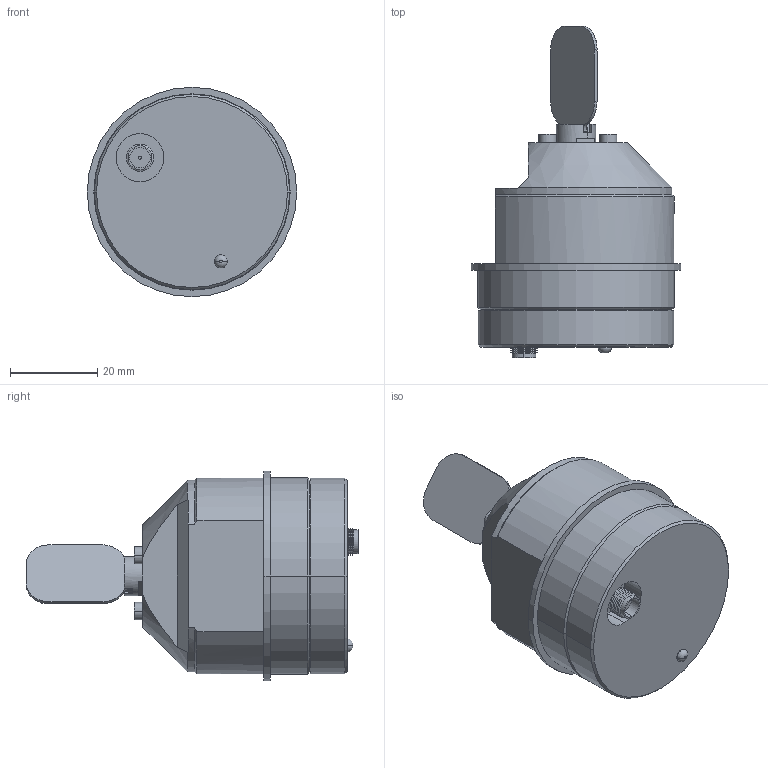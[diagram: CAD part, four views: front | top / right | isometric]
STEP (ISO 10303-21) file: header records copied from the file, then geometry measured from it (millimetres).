
FILE_DESCRIPTION (( 'STEP AP214' ), '1' );
FILE_NAME ('RTAY_A10_SiC.STEP', '2019-06-06T08:08:31', ( '' ), ( '' ), 'SwSTEP 2.0', 'SolidWorks 2011', '' );
FILE_SCHEMA (( 'AUTOMOTIVE_DESIGN' ));
Length unit declared in the file: millimetre
Products named in the file (5): A10_SiC_MirrorY; socket head cap screw_iso_ISO 4762 M2 x 5 --- 5N; RTAY_A10_SiC; Scanner_Solid; Scanner_Draw06_4
Assembly tree (5 placements, depth 2):
  RTAY_A10_SiC
    A10_SiC_MirrorY
    socket head cap screw_iso_ISO 4762 M2 x 5 --- 5N  x2
    Scanner_Solid
    Scanner_Draw06_4
Bounding box: 48 x 76.15 x 48 mm (x, y, z)
Volume: 65786.6 mm3; surface area: 11490.7 mm2
Topology: 5 solids, 5 shells, 237 faces, 544 edges, 330 vertices
Faces by surface type: plane 94, cylinder 73, cone 50, torus 16, bspline 4
Entity records: 7288 total; most frequent: CARTESIAN_POINT 1241, DIRECTION 1099, ORIENTED_EDGE 968, EDGE_CURVE 484, AXIS2_PLACEMENT_3D 435, VERTEX_POINT 297, LINE 229, VECTOR 229
